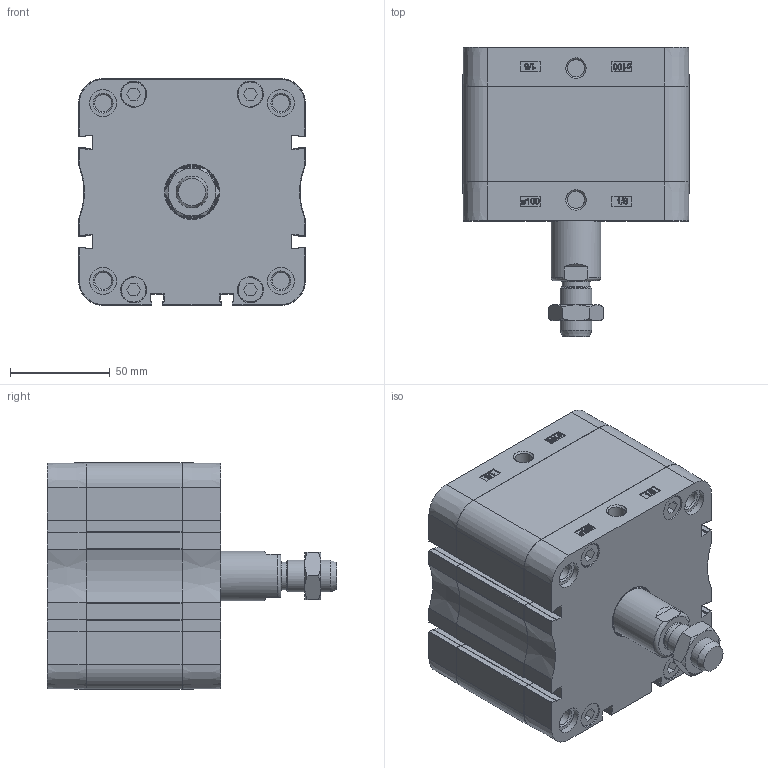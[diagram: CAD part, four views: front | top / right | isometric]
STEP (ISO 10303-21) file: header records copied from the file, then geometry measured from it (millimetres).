
FILE_DESCRIPTION(/* description */ ('Unknown'),/* implementation_level */ '2;1');
FILE_NAME(/* name */ 'ZEFV 100_20',/* time_stamp */ '2024-11-14T14:23:45+01:00',/* author */ ('Unknown'),/* organization */ ('Unknown'),/* preprocessor_version */ 'ST-DEVELOPER v16.7',/* originating_system */ 'Solid Edge',/* authorisation */ 'Unknown');
FILE_SCHEMA (('AUTOMOTIVE_DESIGN {1 0 10303 214 3 1 1}'));
Length unit declared in the file: millimetre
Products named in the file (6): ZEFV 100_20; Kit_2; Profilrohr; Kolbenstange; Kit_1; Mutter
Assembly tree (5 placements, depth 2):
  ZEFV 100_20
    Kit_2
    Profilrohr
    Kolbenstange
    Kit_1
    Mutter
Bounding box: 113.5 x 145 x 113.5 mm (x, y, z)
Volume: 924561.5 mm3; surface area: 162222.6 mm2
Topology: 5 solids, 5 shells, 768 faces, 2060 edges, 1368 vertices
Faces by surface type: plane 360, cylinder 216, bspline 114, cone 56, torus 22
Full cylindrical faces by diameter (mm): 8.376 x8, 8.566 x2, 12 x1, 12.7 x4, 13.1 x8, 13.5 x8, 14 x1, 14.376 x1, 16 x1, 25 x1, 25.6 x1, 26.9 x1, 28 x1, 29.8 x1, 30 x1, 100 x2
Entity records: 29078 total; most frequent: CARTESIAN_POINT 6117, ORIENTED_EDGE 3876, DIRECTION 3478, EDGE_CURVE 1938, VERTEX_POINT 1336, AXIS2_PLACEMENT_3D 1185, LINE 1108, VECTOR 1108
